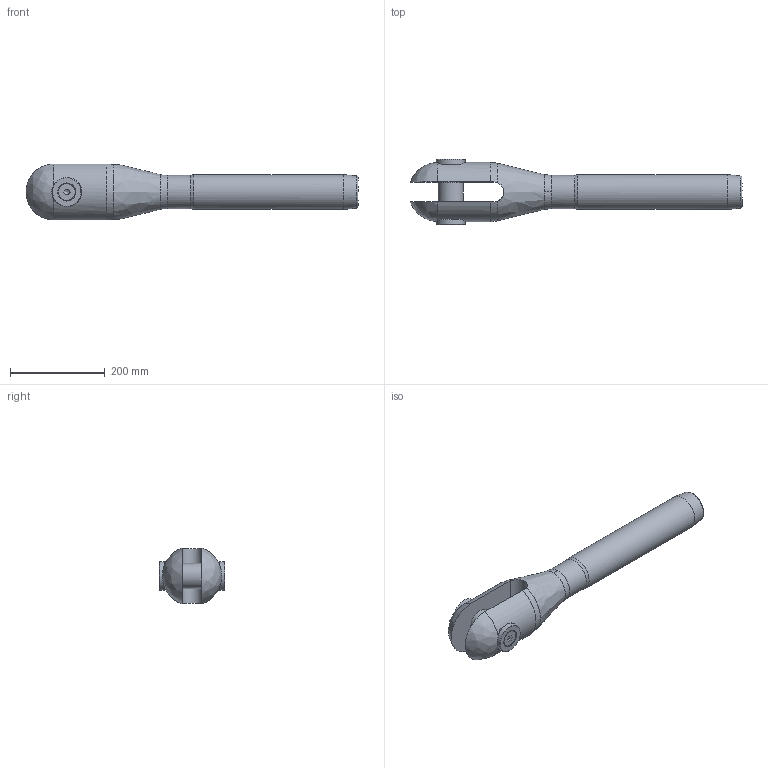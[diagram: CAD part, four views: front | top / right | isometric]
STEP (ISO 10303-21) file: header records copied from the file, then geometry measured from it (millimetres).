
FILE_DESCRIPTION(/* description */ (''),/* implementation_level */ '2;1');
FILE_NAME(/* name */ 'MAC 38_1,4418',/* time_stamp */ '2023-05-23T16:54:58+02:00',/* author */ (''),/* organization */ (''),/* preprocessor_version */ 'ST-DEVELOPER v16.5',/* originating_system */ 'Rhino 7.22',/* authorisation */ '');
FILE_SCHEMA (('CONFIG_CONTROL_DESIGN'));
Length unit declared in the file: millimetre
Products named in the file (1): Document
Bounding box: 699.84 x 137.73 x 117.73 mm (x, y, z)
Volume: 3717837.3 mm3; surface area: 284549.1 mm2
Topology: 6 solids, 6 shells, 75 faces, 209 edges, 144 vertices
Faces by surface type: plane 29, bspline 24, cylinder 22
Full cylindrical faces by diameter (mm): 17.294 x2, 20 x2, 21 x2, 35.4 x2, 53 x1, 54 x2, 61 x2, 70 x1, 73.5 x1
Entity records: 3166 total; most frequent: CARTESIAN_POINT 1823, ORIENTED_EDGE 410, EDGE_CURVE 205, VERTEX_POINT 144, EDGE_LOOP 85, B_SPLINE_CURVE_WITH_KNOTS 84, ADVANCED_FACE 75, FACE_OUTER_BOUND 75
